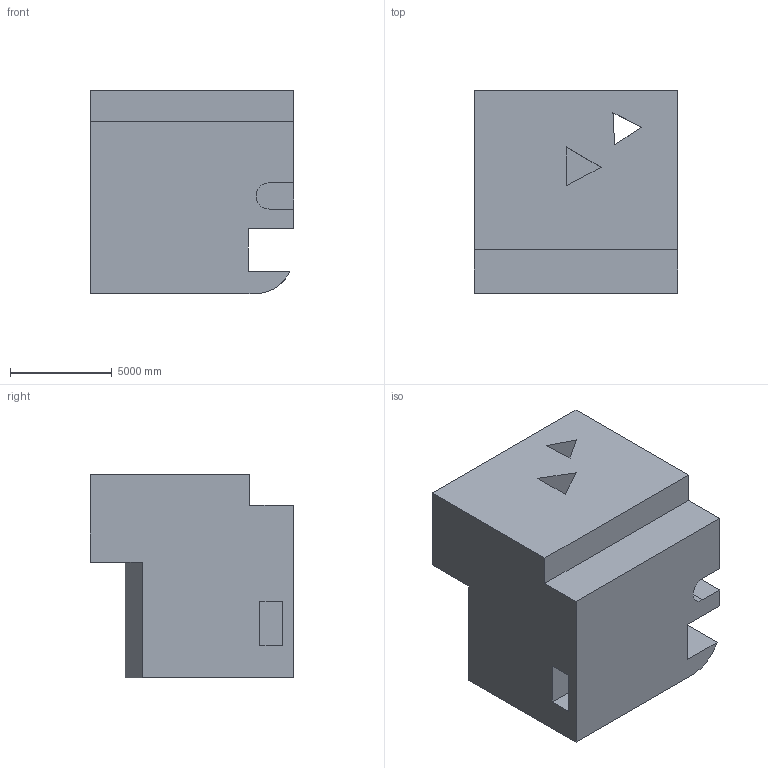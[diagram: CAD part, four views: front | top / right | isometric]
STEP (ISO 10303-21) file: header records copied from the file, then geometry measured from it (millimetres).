
FILE_DESCRIPTION (( 'STEP AP203' ), '1' );
FILE_NAME ('892.STEP', '2022-07-29T14:03:27', ( 'user' ), ( '' ), 'SwSTEP 2.0', 'SolidWorks 2021', '' );
FILE_SCHEMA (( 'CONFIG_CONTROL_DESIGN' ));
Length unit declared in the file: centimetre
Products named in the file (1): 892
Bounding box: 10000 x 10000 x 10000 mm (x, y, z)
Volume: 734436438320.5 mm3; surface area: 766490985.8 mm2
Topology: 1 solids, 1 shells, 38 faces, 99 edges, 66 vertices
Faces by surface type: plane 32, cylinder 6
Entity records: 1235 total; most frequent: CARTESIAN_POINT 207, ORIENTED_EDGE 198, DIRECTION 187, EDGE_CURVE 99, VECTOR 87, LINE 87, VERTEX_POINT 66, AXIS2_PLACEMENT_3D 50
